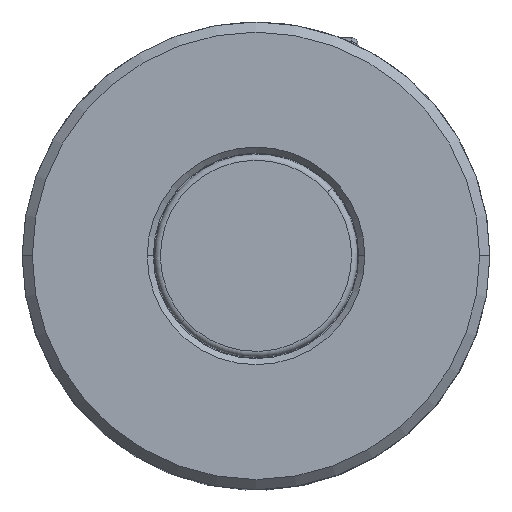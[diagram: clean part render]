
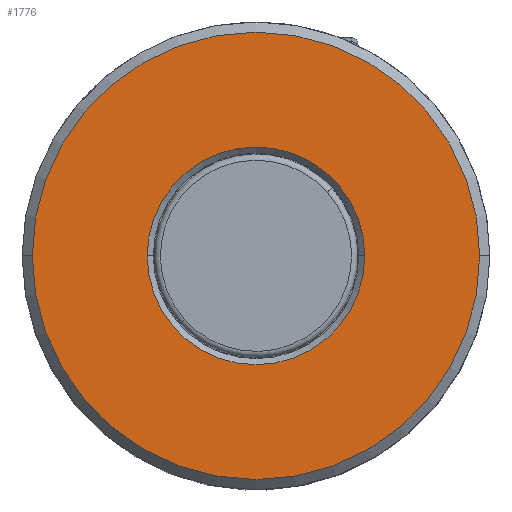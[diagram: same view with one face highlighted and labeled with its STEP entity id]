
A CAD part, top view. The second image highlights one B-rep face of the part: STEP entity #1776.
In plain terms, the highlighted planar face has unit normal (0, 0, 1).
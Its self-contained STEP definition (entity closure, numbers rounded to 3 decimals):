
#4 = CARTESIAN_POINT ( 'NONE',  ( 0., 0., 15. ) ) ;
#40 = ORIENTED_EDGE ( 'NONE', *, *, #1361, .T. ) ;
#147 = PLANE ( 'NONE',  #2146 ) ;
#164 = DIRECTION ( 'NONE',  ( 1., 0., 0. ) ) ;
#322 = DIRECTION ( 'NONE',  ( 1., 0., 0. ) ) ;
#398 = DIRECTION ( 'NONE',  ( 0., 0., 1. ) ) ;
#415 = AXIS2_PLACEMENT_3D ( 'NONE', #4, #398, #791 ) ;
#487 = CARTESIAN_POINT ( 'NONE',  ( 5.35, 0., 15. ) ) ;
#630 = CARTESIAN_POINT ( 'NONE',  ( 0., 0., 15. ) ) ;
#791 = DIRECTION ( 'NONE',  ( 1., 0., 0. ) ) ;
#833 = DIRECTION ( 'NONE',  ( 1., 0., 0. ) ) ;
#967 = EDGE_CURVE ( 'NONE', #1105, #1663, #2366, .T. ) ;
#970 = CARTESIAN_POINT ( 'NONE',  ( 0., 0., 15. ) ) ;
#980 = ORIENTED_EDGE ( 'NONE', *, *, #1896, .T. ) ;
#993 = DIRECTION ( 'NONE',  ( 0., 0., 1. ) ) ;
#1085 = AXIS2_PLACEMENT_3D ( 'NONE', #1108, #1729, #322 ) ;
#1105 = VERTEX_POINT ( 'NONE', #1795 ) ;
#1108 = CARTESIAN_POINT ( 'NONE',  ( 0., 0., 15. ) ) ;
#1179 = EDGE_LOOP ( 'NONE', ( #2364, #40 ) ) ;
#1284 = EDGE_CURVE ( 'NONE', #1658, #1462, #2435, .T. ) ;
#1313 = CIRCLE ( 'NONE', #1852, 11. ) ;
#1361 = EDGE_CURVE ( 'NONE', #1462, #1658, #1313, .T. ) ;
#1462 = VERTEX_POINT ( 'NONE', #2381 ) ;
#1468 = CARTESIAN_POINT ( 'NONE',  ( -11., 0., 15. ) ) ;
#1488 = EDGE_LOOP ( 'NONE', ( #980, #2167 ) ) ;
#1496 = FACE_OUTER_BOUND ( 'NONE', #1179, .T. ) ;
#1658 = VERTEX_POINT ( 'NONE', #1468 ) ;
#1663 = VERTEX_POINT ( 'NONE', #487 ) ;
#1693 = FACE_BOUND ( 'NONE', #1488, .T. ) ;
#1729 = DIRECTION ( 'NONE',  ( 0., 0., -1. ) ) ;
#1776 = ADVANCED_FACE ( 'NONE', ( #1693, #1496 ), #147, .T. ) ;
#1795 = CARTESIAN_POINT ( 'NONE',  ( -5.35, 0., 15. ) ) ;
#1852 = AXIS2_PLACEMENT_3D ( 'NONE', #970, #993, #2356 ) ;
#1896 = EDGE_CURVE ( 'NONE', #1663, #1105, #2391, .T. ) ;
#1938 = DIRECTION ( 'NONE',  ( 0., 0., 1. ) ) ;
#2042 = DIRECTION ( 'NONE',  ( 0., 0., -1. ) ) ;
#2146 = AXIS2_PLACEMENT_3D ( 'NONE', #2319, #1938, #164 ) ;
#2167 = ORIENTED_EDGE ( 'NONE', *, *, #967, .T. ) ;
#2319 = CARTESIAN_POINT ( 'NONE',  ( 0., -11.5, 15. ) ) ;
#2356 = DIRECTION ( 'NONE',  ( 1., 0., 0. ) ) ;
#2364 = ORIENTED_EDGE ( 'NONE', *, *, #1284, .T. ) ;
#2366 = CIRCLE ( 'NONE', #2528, 5.35 ) ;
#2381 = CARTESIAN_POINT ( 'NONE',  ( 11., 0., 15. ) ) ;
#2391 = CIRCLE ( 'NONE', #1085, 5.35 ) ;
#2435 = CIRCLE ( 'NONE', #415, 11. ) ;
#2528 = AXIS2_PLACEMENT_3D ( 'NONE', #630, #2042, #833 ) ;
